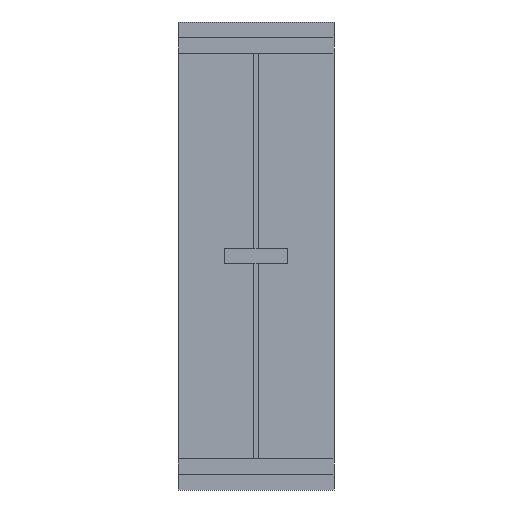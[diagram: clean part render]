
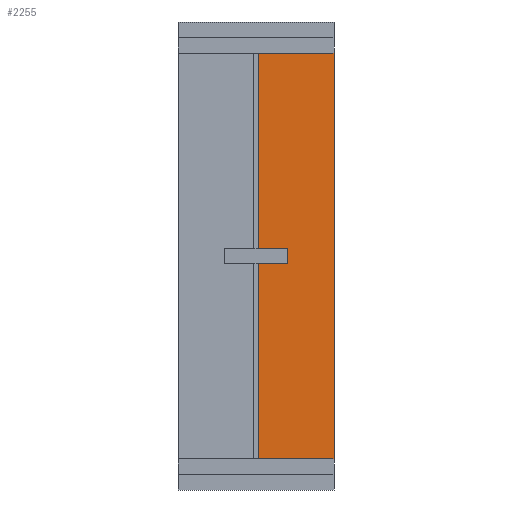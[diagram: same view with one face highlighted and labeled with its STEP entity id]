
A CAD part, front view. The second image highlights one B-rep face of the part: STEP entity #2255.
In plain terms, the highlighted planar face has unit normal (0, -1, 0).
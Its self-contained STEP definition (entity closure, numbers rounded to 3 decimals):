
#30 = LINE ( 'NONE', #1217, #1138 ) ;
#44 = CARTESIAN_POINT ( 'NONE',  ( 200., 345., 1450. ) ) ;
#50 = CARTESIAN_POINT ( 'NONE',  ( 500., 345., 100. ) ) ;
#53 = ORIENTED_EDGE ( 'NONE', *, *, #951, .F. ) ;
#63 = VECTOR ( 'NONE', #171, 1000. ) ;
#171 = DIRECTION ( 'NONE',  ( 0., 0., -1. ) ) ;
#175 = EDGE_CURVE ( 'NONE', #574, #1240, #1093, .T. ) ;
#195 = ORIENTED_EDGE ( 'NONE', *, *, #1052, .F. ) ;
#246 = VERTEX_POINT ( 'NONE', #2416 ) ;
#279 = ORIENTED_EDGE ( 'NONE', *, *, #2153, .T. ) ;
#324 = CARTESIAN_POINT ( 'NONE',  ( 490., 345., 65. ) ) ;
#329 = CARTESIAN_POINT ( 'NONE',  ( 15., 345., 65. ) ) ;
#390 = CARTESIAN_POINT ( 'NONE',  ( 490., 345., 2800. ) ) ;
#435 = EDGE_CURVE ( 'NONE', #246, #1300, #1957, .T. ) ;
#519 = EDGE_CURVE ( 'NONE', #574, #1332, #2466, .T. ) ;
#521 = ORIENTED_EDGE ( 'NONE', *, *, #1767, .F. ) ;
#574 = VERTEX_POINT ( 'NONE', #44 ) ;
#636 = VERTEX_POINT ( 'NONE', #1276 ) ;
#664 = ORIENTED_EDGE ( 'NONE', *, *, #435, .F. ) ;
#679 = VECTOR ( 'NONE', #1691, 1000. ) ;
#694 = DIRECTION ( 'NONE',  ( 0., 0., 1. ) ) ;
#695 = CARTESIAN_POINT ( 'NONE',  ( 490., 345., 100. ) ) ;
#711 = ORIENTED_EDGE ( 'NONE', *, *, #2083, .F. ) ;
#721 = VECTOR ( 'NONE', #1809, 1000. ) ;
#722 = LINE ( 'NONE', #695, #679 ) ;
#763 = VECTOR ( 'NONE', #694, 1000. ) ;
#780 = CARTESIAN_POINT ( 'NONE',  ( 500., 345., 100. ) ) ;
#812 = VERTEX_POINT ( 'NONE', #324 ) ;
#861 = DIRECTION ( 'NONE',  ( 0., 0., 1. ) ) ;
#899 = CARTESIAN_POINT ( 'NONE',  ( 200., 345., 1450. ) ) ;
#951 = EDGE_CURVE ( 'NONE', #1300, #1183, #1028, .T. ) ;
#985 = DIRECTION ( 'NONE',  ( -1., 0., 0. ) ) ;
#1011 = AXIS2_PLACEMENT_3D ( 'NONE', #2501, #1016, #1445 ) ;
#1016 = DIRECTION ( 'NONE',  ( 0., 1., 0. ) ) ;
#1017 = CARTESIAN_POINT ( 'NONE',  ( 200., 345., 1350. ) ) ;
#1028 = LINE ( 'NONE', #50, #2486 ) ;
#1034 = VERTEX_POINT ( 'NONE', #329 ) ;
#1044 = VECTOR ( 'NONE', #2045, 1000. ) ;
#1052 = EDGE_CURVE ( 'NONE', #1240, #1914, #1910, .T. ) ;
#1078 = ORIENTED_EDGE ( 'NONE', *, *, #2168, .F. ) ;
#1093 = LINE ( 'NONE', #899, #1320 ) ;
#1102 = CARTESIAN_POINT ( 'NONE',  ( 490., 345., 100. ) ) ;
#1137 = EDGE_CURVE ( 'NONE', #1034, #2239, #30, .T. ) ;
#1138 = VECTOR ( 'NONE', #861, 1000. ) ;
#1183 = VERTEX_POINT ( 'NONE', #1102 ) ;
#1187 = VECTOR ( 'NONE', #1755, 1000. ) ;
#1217 = CARTESIAN_POINT ( 'NONE',  ( 15., 345., 65. ) ) ;
#1234 = CARTESIAN_POINT ( 'NONE',  ( 200., 345., 1450. ) ) ;
#1240 = VERTEX_POINT ( 'NONE', #1620 ) ;
#1260 = FACE_OUTER_BOUND ( 'NONE', #2534, .T. ) ;
#1276 = CARTESIAN_POINT ( 'NONE',  ( 490., 345., 2735. ) ) ;
#1300 = VERTEX_POINT ( 'NONE', #780 ) ;
#1320 = VECTOR ( 'NONE', #1718, 1000. ) ;
#1332 = VERTEX_POINT ( 'NONE', #1017 ) ;
#1338 = DIRECTION ( 'NONE',  ( -1., 0., 0. ) ) ;
#1427 = CARTESIAN_POINT ( 'NONE',  ( 200., 345., 1350. ) ) ;
#1436 = ORIENTED_EDGE ( 'NONE', *, *, #519, .T. ) ;
#1445 = DIRECTION ( 'NONE',  ( 0., 0., 1. ) ) ;
#1462 = LINE ( 'NONE', #2280, #1044 ) ;
#1477 = VERTEX_POINT ( 'NONE', #2655 ) ;
#1494 = EDGE_CURVE ( 'NONE', #1034, #812, #1684, .T. ) ;
#1601 = ORIENTED_EDGE ( 'NONE', *, *, #1494, .T. ) ;
#1620 = CARTESIAN_POINT ( 'NONE',  ( 15., 345., 1450. ) ) ;
#1629 = CARTESIAN_POINT ( 'NONE',  ( 15., 345., 1350. ) ) ;
#1632 = ORIENTED_EDGE ( 'NONE', *, *, #1137, .F. ) ;
#1682 = CARTESIAN_POINT ( 'NONE',  ( 15., 345., 2735. ) ) ;
#1684 = LINE ( 'NONE', #1852, #2271 ) ;
#1691 = DIRECTION ( 'NONE',  ( 0., 0., -1. ) ) ;
#1706 = CARTESIAN_POINT ( 'NONE',  ( 15., 345., 65. ) ) ;
#1718 = DIRECTION ( 'NONE',  ( -1., 0., 0. ) ) ;
#1744 = VECTOR ( 'NONE', #985, 1000. ) ;
#1755 = DIRECTION ( 'NONE',  ( 0., 0., -1. ) ) ;
#1767 = EDGE_CURVE ( 'NONE', #636, #1477, #2450, .T. ) ;
#1809 = DIRECTION ( 'NONE',  ( 1., 0., 0. ) ) ;
#1852 = CARTESIAN_POINT ( 'NONE',  ( -490., 345., 65. ) ) ;
#1910 = LINE ( 'NONE', #1706, #763 ) ;
#1914 = VERTEX_POINT ( 'NONE', #1682 ) ;
#1939 = EDGE_CURVE ( 'NONE', #1477, #246, #1462, .T. ) ;
#1957 = LINE ( 'NONE', #2118, #1187 ) ;
#1972 = LINE ( 'NONE', #2223, #721 ) ;
#2036 = PLANE ( 'NONE',  #1011 ) ;
#2045 = DIRECTION ( 'NONE',  ( 1., 0., 0. ) ) ;
#2083 = EDGE_CURVE ( 'NONE', #1183, #812, #722, .T. ) ;
#2118 = CARTESIAN_POINT ( 'NONE',  ( 500., 345., 2700. ) ) ;
#2134 = ORIENTED_EDGE ( 'NONE', *, *, #1939, .F. ) ;
#2153 = EDGE_CURVE ( 'NONE', #1332, #2239, #2417, .T. ) ;
#2168 = EDGE_CURVE ( 'NONE', #1914, #636, #1972, .T. ) ;
#2223 = CARTESIAN_POINT ( 'NONE',  ( -490., 345., 2735. ) ) ;
#2239 = VERTEX_POINT ( 'NONE', #1629 ) ;
#2255 = ADVANCED_FACE ( 'NONE', ( #1260 ), #2036, .F. ) ;
#2271 = VECTOR ( 'NONE', #2289, 1000. ) ;
#2280 = CARTESIAN_POINT ( 'NONE',  ( 490., 345., 2700. ) ) ;
#2289 = DIRECTION ( 'NONE',  ( 1., 0., 0. ) ) ;
#2293 = DIRECTION ( 'NONE',  ( 0., 0., -1. ) ) ;
#2416 = CARTESIAN_POINT ( 'NONE',  ( 500., 345., 2700. ) ) ;
#2417 = LINE ( 'NONE', #1427, #1744 ) ;
#2450 = LINE ( 'NONE', #390, #63 ) ;
#2466 = LINE ( 'NONE', #1234, #2617 ) ;
#2486 = VECTOR ( 'NONE', #1338, 1000. ) ;
#2501 = CARTESIAN_POINT ( 'NONE',  ( 0., 345., 0. ) ) ;
#2534 = EDGE_LOOP ( 'NONE', ( #1078, #195, #2661, #1436, #279, #1632, #1601, #711, #53, #664, #2134, #521 ) ) ;
#2617 = VECTOR ( 'NONE', #2293, 1000. ) ;
#2655 = CARTESIAN_POINT ( 'NONE',  ( 490., 345., 2700. ) ) ;
#2661 = ORIENTED_EDGE ( 'NONE', *, *, #175, .F. ) ;
